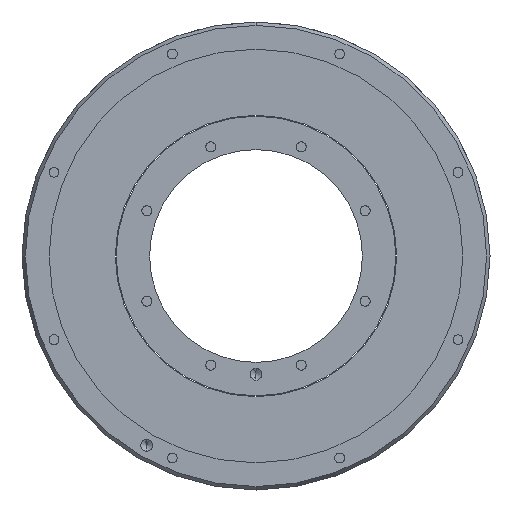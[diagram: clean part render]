
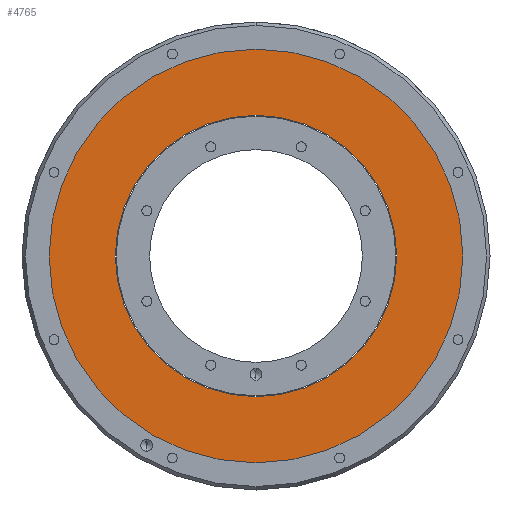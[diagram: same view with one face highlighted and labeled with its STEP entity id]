
A CAD part, front view. The second image highlights one B-rep face of the part: STEP entity #4765.
In plain terms, the highlighted planar face has unit normal (0, -1, 0).
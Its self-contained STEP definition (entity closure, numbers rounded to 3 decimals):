
#68 = CIRCLE ( 'NONE', #394, 59.5 ) ;
#106 = DIRECTION ( 'NONE',  ( 0., 0., -1. ) ) ;
#112 = DIRECTION ( 'NONE',  ( 0., 0., -1. ) ) ;
#213 = DIRECTION ( 'NONE',  ( 0., -1., 0. ) ) ;
#394 = AXIS2_PLACEMENT_3D ( 'NONE', #3266, #497, #106 ) ;
#450 = EDGE_CURVE ( 'NONE', #4851, #989, #3298, .T. ) ;
#497 = DIRECTION ( 'NONE',  ( 0., -1., 0. ) ) ;
#731 = EDGE_CURVE ( 'NONE', #2154, #931, #68, .T. ) ;
#847 = DIRECTION ( 'NONE',  ( 0., -1., 0. ) ) ;
#931 = VERTEX_POINT ( 'NONE', #3030 ) ;
#989 = VERTEX_POINT ( 'NONE', #3855 ) ;
#1275 = DIRECTION ( 'NONE',  ( 0., 0., -1. ) ) ;
#1343 = FACE_OUTER_BOUND ( 'NONE', #1789, .T. ) ;
#1361 = DIRECTION ( 'NONE',  ( 0., 0., -1. ) ) ;
#1500 = CIRCLE ( 'NONE', #5084, 59.5 ) ;
#1677 = EDGE_CURVE ( 'NONE', #931, #2154, #1500, .T. ) ;
#1731 = DIRECTION ( 'NONE',  ( 0., -1., 0. ) ) ;
#1789 = EDGE_LOOP ( 'NONE', ( #2314, #3083 ) ) ;
#1811 = CARTESIAN_POINT ( 'NONE',  ( 0., 1., 0. ) ) ;
#2012 = CARTESIAN_POINT ( 'NONE',  ( 0., 1., 59.5 ) ) ;
#2127 = CARTESIAN_POINT ( 'NONE',  ( 59.5, 1., 0. ) ) ;
#2154 = VERTEX_POINT ( 'NONE', #2012 ) ;
#2309 = FACE_BOUND ( 'NONE', #2777, .T. ) ;
#2314 = ORIENTED_EDGE ( 'NONE', *, *, #2834, .T. ) ;
#2722 = CIRCLE ( 'NONE', #4259, 87.5 ) ;
#2777 = EDGE_LOOP ( 'NONE', ( #4297, #3646 ) ) ;
#2834 = EDGE_CURVE ( 'NONE', #989, #4851, #2722, .T. ) ;
#3030 = CARTESIAN_POINT ( 'NONE',  ( 0., 1., -59.5 ) ) ;
#3083 = ORIENTED_EDGE ( 'NONE', *, *, #450, .T. ) ;
#3266 = CARTESIAN_POINT ( 'NONE',  ( 0., 1., 0. ) ) ;
#3298 = CIRCLE ( 'NONE', #4335, 87.5 ) ;
#3415 = AXIS2_PLACEMENT_3D ( 'NONE', #2127, #1731, #112 ) ;
#3452 = DIRECTION ( 'NONE',  ( 0., 0., -1. ) ) ;
#3646 = ORIENTED_EDGE ( 'NONE', *, *, #731, .F. ) ;
#3855 = CARTESIAN_POINT ( 'NONE',  ( 0., 1., -87.5 ) ) ;
#4115 = CARTESIAN_POINT ( 'NONE',  ( 0., 1., 87.5 ) ) ;
#4259 = AXIS2_PLACEMENT_3D ( 'NONE', #1811, #213, #1361 ) ;
#4297 = ORIENTED_EDGE ( 'NONE', *, *, #1677, .F. ) ;
#4335 = AXIS2_PLACEMENT_3D ( 'NONE', #4664, #4632, #3452 ) ;
#4632 = DIRECTION ( 'NONE',  ( 0., -1., 0. ) ) ;
#4664 = CARTESIAN_POINT ( 'NONE',  ( 0., 1., 0. ) ) ;
#4765 = ADVANCED_FACE ( 'NONE', ( #1343, #2309 ), #4891, .T. ) ;
#4816 = CARTESIAN_POINT ( 'NONE',  ( 0., 1., 0. ) ) ;
#4851 = VERTEX_POINT ( 'NONE', #4115 ) ;
#4891 = PLANE ( 'NONE',  #3415 ) ;
#5084 = AXIS2_PLACEMENT_3D ( 'NONE', #4816, #847, #1275 ) ;
